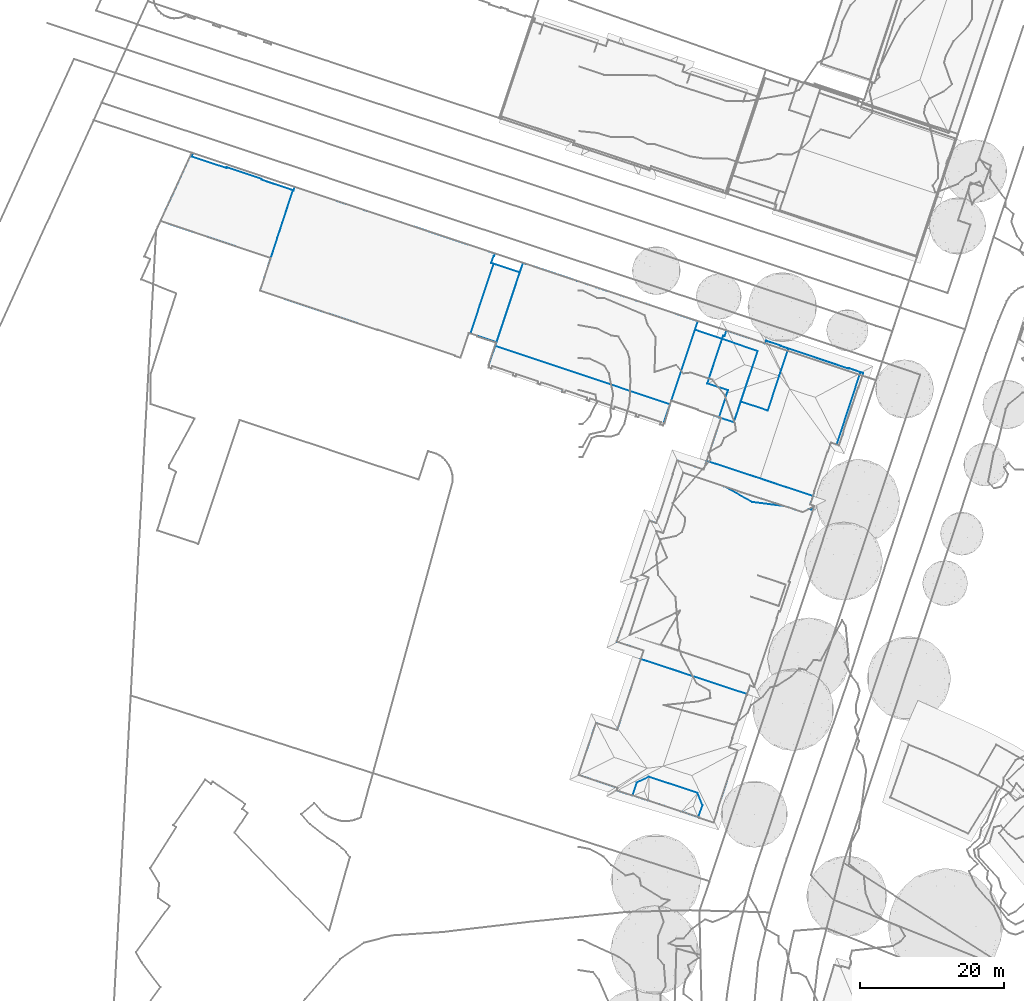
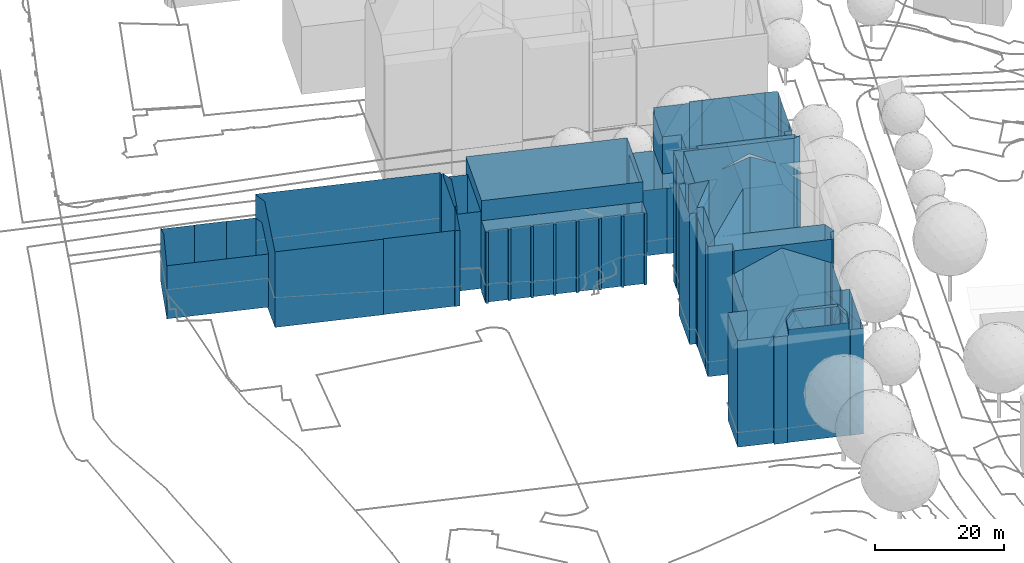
# Not in any storey, part 19 of 494: 2 walls.
"""IFC2X3 model written with IfcOpenShell, lengths in metres."""

from ifc_helpers import new_model, si_unit, frame, origin_with_axes, place, context, subcontext, project, faceted_brep, element, save


model = new_model("IFC2X3")

# Units and contexts
model_context = context("Model", 3, precision=1e-05, world=origin_with_axes())
body_context = subcontext(model_context, "Body", "Model", "MODEL_VIEW")
ifc_project = project(units=[si_unit("AREAUNIT", "SQUARE_METRE"), si_unit("LENGTHUNIT", "METRE")], contexts=[model_context])

# Walls
wall_1_placement = place(None, frame((-58.7722679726, 116.2176160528, 523.7797), z_axis=(0.0, 0.0, 1.0), x_axis=(1.0, 0.0, 0.0)))
element("IfcWall", 1, at=wall_1_placement, Name="Wall 0", context=body_context, shape_type="Brep", body=[
    faceted_brep([(74.0280000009, -15.0419999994, 2.1637), (74.4210000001, -13.8662, 16.6373), (74.0280000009, -15.0419999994, 14.5215), (70.745000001, -24.8584000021, 16.6373), (74.4210000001, -13.8662, -0.519), (70.745000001, -24.8584000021, -0.519), (70.745000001, -24.8584000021, 14.5215), (70.5830000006, -25.378899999, 16.6373), (70.5830000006, -25.378899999, 12.8257), (70.745000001, -24.8584000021, 2.1637), (70.5830000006, -25.378899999, -0.519), (49.7540000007, -6.9981000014, 14.2156), (49.8029999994, -7.0137000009, 14.2156), (49.7540000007, -6.9981000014, -0.373), (49.7190000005, -7.1035000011, 14.2156), (49.7190000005, -7.1035000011, -0.373), (74.4639999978, -26.0967000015, 14.5215), (74.4639999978, -26.0967000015, 2.1637), (74.4389999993, -26.2001999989, 14.5215), (74.4389999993, -26.2001999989, 2.1637), (77.362999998, -27.1797000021, 14.5215), (77.362999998, -27.1797000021, 2.1637), (78.6090000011, -23.432599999, 14.5215), (78.6090000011, -23.432599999, 2.1637), (75.7329999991, -22.4776000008, 14.5215), (75.7329999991, -22.4776000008, 2.1637), (77.7799999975, -16.3203000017, 14.5215), (77.7799999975, -16.3203000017, 2.1637), (45.555999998, -19.9618999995, 12.8257), (45.4869999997, -19.938500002, 12.8257), (45.555999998, -19.9618999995, -0.71), (45.4549999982, -20.2646999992, 12.8257), (45.4549999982, -20.2646999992, -0.71), (45.8350000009, -20.3916000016, 12.8257), (45.8350000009, -20.3916000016, -0.71), (45.9389999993, -20.0791000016, 12.8257), (45.9389999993, -20.0791000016, -0.71), (48.9179999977, -21.0703000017, 12.8257), (48.9179999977, -21.0703000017, -0.71), (48.8139999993, -21.3828000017, 12.8257), (48.8139999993, -21.3828000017, -0.71), (49.1939999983, -21.5088, 12.8257), (49.1939999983, -21.5088, -0.71), (49.2980000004, -21.1963, 12.8257), (49.2980000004, -21.1963, -0.71), (52.3339999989, -22.2070000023, 12.8257), (52.3339999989, -22.2070000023, -0.71), (52.2300000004, -22.5196000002, 12.8257), (52.2300000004, -22.5195000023, -0.71), (52.6090000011, -22.6455000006, 12.8257), (52.6090000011, -22.6455000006, -0.71), (52.7139999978, -22.3339999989, 12.8257), (52.7139999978, -22.3339999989, -0.71), (55.7229999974, -23.3330000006, 12.8257), (55.7229999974, -23.3330000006, -0.71), (55.6180000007, -23.6464999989, 12.8257), (55.6180000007, -23.6464999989, -0.71), (55.9969999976, -23.7725000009, 12.8257), (55.9969999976, -23.7725000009, -0.71), (56.1019999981, -23.4589999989, 12.8257), (56.1019999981, -23.4589999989, -0.71), (59.1180000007, -24.4649000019, 12.8257), (59.1180000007, -24.4649000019, -0.71), (59.0139999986, -24.7783000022, 12.8257), (59.0139999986, -24.7783000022, -0.71), (59.3839999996, -24.9004000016, 12.8257), (59.3839999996, -24.9004000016, -0.71), (59.487999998, -24.5879000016, 12.8257), (59.487999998, -24.5879000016, -0.71), (62.5150000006, -25.5956999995, 12.8257), (62.5150000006, -25.5956999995, -0.71), (62.4109999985, -25.9092000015, 12.8257), (62.4109999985, -25.9092000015, -0.71), (62.7899999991, -26.0351999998, 12.8257), (62.7899999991, -26.0351999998, -0.71), (62.8939999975, -25.7217000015, 12.8257), (62.8939999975, -25.7217000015, -0.71), (65.9210000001, -26.7294999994, 12.8257), (65.9210000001, -26.7294999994, -0.71), (65.8169999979, -27.0430000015, 12.8257), (65.8169999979, -27.0430000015, -0.71), (66.186999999, -27.1660000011, 12.8257), (66.186999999, -27.1660000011, -0.71), (66.2909999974, -26.8526000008, 12.8257), (66.2909999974, -26.8526000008, -0.71), (69.3189999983, -27.8612999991, 12.8257), (69.3189999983, -27.8612999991, -0.71), (69.2149999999, -28.1737999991, 12.8257), (69.2149999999, -28.1737999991, -0.71), (69.5979999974, -28.3007999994, 12.8257), (69.5979999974, -28.3007999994, -0.71), (46.370000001, -17.2959000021, 16.6374), (46.370000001, -17.2959000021, -0.519), (46.370000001, -17.2959000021, -0.71), (46.2009999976, -4.8467000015, -0.594), (46.2009999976, -4.8467000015, 14.4156), (46.1349999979, -4.8251999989, -0.594), (46.318, -4.496100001, 14.2276), (46.318, -4.496100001, -0.594), (18.5789999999, 4.7294999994, 14.2446), (32.4979999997, 0.1006000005, 14.2356), (18.5789999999, 4.7294999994, -0.5939), (34.182, -0.4600000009, -0.594), (39.3829999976, -2.1895000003, 14.2316), (18.4210000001, 4.254900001, 6.9523), (18.4210000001, 4.254900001, 3.1787), (18.4210000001, 4.254900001, -0.5939), (30.1099999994, -15.0419999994, 13.7547), (30.0969999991, -15.0918000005, 13.7257), (30.1099999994, -15.0419999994, -0.594), (40.8000000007, -18.6152999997, -0.594), (40.8000000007, -18.6152999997, 13.7516), (40.7829999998, -18.6816999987, -0.594), (41.5520000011, -18.9356000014, 13.7146), (41.5520000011, -18.9356000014, -0.594), (42.7009999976, -15.4873000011, -0.594), (42.7009999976, -15.4873000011, 5.5394), (23.2190000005, -12.7969000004, -0.594), (30.0969999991, -15.0918000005, -0.594), (13.7929999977, -9.6533000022, 13.7237), (13.7929999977, -9.6533000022, -0.5939), (17.868999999, -11.0126999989, 2.9847), (13.7929999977, -9.6533000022, 8.3542), (15.2699999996, -5.120099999, 0.0), (15.2699999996, -5.120099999, 10.054), (6.1079999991, -2.0478999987, 10.06), (8.9079999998, -2.9873000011, 0.0), (0.0, 0.0, 0.0), (0.0, 0.0, 10.0651), (14.0299999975, 5.8515000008, 0.0), (13.9890000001, 5.7285000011, 2.5258), (13.9890000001, 5.7285000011, 0.0), (9.1999999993, 7.4589999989, 10.0391), (14.0299999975, 5.8515000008, 10.0371), (9.1999999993, 7.4589999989, 0.0), (9.1589999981, 7.3348999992, 0.0), (4.4509999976, 9.2881000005, 9.9211), (4.3350000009, 8.9393999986, 0.0), (4.4509999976, 9.2881000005, 0.0), (4.2839999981, 9.3436999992, 9.9211), (4.2839999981, 9.3436999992, 0.0), (46.1349999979, -4.8251999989, 14.4156), (45.8099999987, -5.8037, 14.9385), (45.8099999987, -5.8037, 3.2897), (45.8099999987, -5.8037, -0.594), (46.370000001, -17.2959000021, 12.8257), (46.5449999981, -16.7705000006, -0.373), (45.4869999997, -19.938500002, -0.71), (49.8029999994, -7.0137000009, -0.373), (46.5449999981, -16.7705000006, 14.2156), (50.2129999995, -5.7881000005, -0.519), (50.2129999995, -5.7881000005, 16.6374), (45.8099999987, -5.8037, 9.1141), (46.1549999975, -5.9189999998, 14.2156), (46.1549999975, -5.9189999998, -0.373), (46.1549999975, -5.9189999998, 14.9385), (46.1549999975, -5.9189999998, -0.594), (69.699000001, -27.9970999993, 12.8257), (70.5830000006, -25.378899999, -0.71), (69.699000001, -27.9970999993, -0.71), (2.0979999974, 4.5762000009, 12.5788), (13.9890000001, 5.7285000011, 10.103), (18.3409999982, 4.2822000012, 0.0), (18.3409999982, 4.2822000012, -0.5939), (18.3409999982, 4.2822000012, 10.1), (18.4210000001, 4.254900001, 14.4986), (18.3409999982, 4.2822000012, 14.4976), (44.2179999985, -11.7217000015, -0.594), (44.2179999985, -11.7217000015, -0.373), (42.9349999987, -15.5645000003, -0.373), (42.9349999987, -15.5645000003, -0.594), (44.2179999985, -11.7217000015, 14.2156), (44.2179999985, -11.7217000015, 18.0432), (42.9349999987, -15.5645000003, 15.7615), (42.9349999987, -15.5645000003, 14.2156), (43.873999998, -15.8779000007, -0.373), (43.873999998, -15.8779000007, 14.2156), (42.7009999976, -15.4873000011, 15.7615), (50.6559999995, -5.9345999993, 16.6374), (50.6559999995, -5.9345999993, -0.519), (54.0139999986, -7.0537, 16.6374), (54.0139999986, -7.0537, -0.519), (53.6339999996, -6.9268000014, 16.6374), (57.7029999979, -8.2831999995, 16.6374), (57.7249999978, -8.2910000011, -0.519), (53.6339999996, -6.9268000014, -0.519), (60.4169999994, -9.1865000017, 16.6374), (60.7969999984, -9.313500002, 16.6374), (60.7969999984, -9.313500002, -0.519), (63.824000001, -10.3233000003, 16.6374), (63.824000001, -10.3233000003, -0.519), (67.2199999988, -11.4541000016, 16.6373), (67.2199999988, -11.4541000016, -0.519), (64.2029999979, -10.4492000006, 16.6374), (67.5989999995, -11.5800999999, -0.519), (67.5989999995, -11.5800999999, 16.6373), (64.2029999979, -10.4492000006, -0.519), (15.1970000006, -5.3427999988, -0.5939), (16.1719999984, -2.3603999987, 0.0), (16.1719999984, -2.3603999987, -0.5939), (15.193, -5.3555000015, 16.2684), (16.1719999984, -2.3603999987, 11.5119), (16.1719999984, -2.3603999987, 18.0433), (16.8310000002, -0.3418000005, 12.5788), (40.7829999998, -18.6816999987, 13.7136), (9.1589999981, 7.3348999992, 10.1061), (4.3350000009, 8.9393999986, 10.1091), (60.4169999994, -9.1865000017, -0.519)], [[[0, 1, 2]], [[2, 1, 3]], [[4, 0, 5]], [[3, 6, 2]], [[6, 3, 7]], [[6, 8, 9]], [[5, 9, 10]], [[8, 6, 7]], [[11, 12, 13]], [[14, 11, 15]], [[16, 6, 17]], [[18, 16, 19]], [[20, 18, 21]], [[22, 20, 23]], [[24, 22, 25]], [[26, 24, 27]], [[2, 26, 0]], [[28, 29, 30]], [[31, 28, 32]], [[33, 31, 34]], [[35, 33, 36]], [[37, 35, 38]], [[39, 37, 40]], [[41, 39, 42]], [[43, 41, 44]], [[45, 43, 46]], [[47, 45, 48]], [[49, 47, 50]], [[51, 49, 52]], [[53, 51, 54]], [[55, 53, 56]], [[57, 55, 58]], [[59, 57, 60]], [[61, 59, 62]], [[63, 61, 64]], [[65, 63, 66]], [[67, 65, 68]], [[69, 67, 70]], [[71, 69, 72]], [[73, 71, 74]], [[75, 73, 76]], [[77, 75, 78]], [[79, 77, 80]], [[81, 79, 82]], [[83, 81, 84]], [[85, 83, 86]], [[87, 85, 88]], [[89, 87, 90]], [[7, 91, 8]], [[92, 10, 93]], [[94, 95, 96]], [[97, 95, 98]], [[95, 94, 98]], [[99, 100, 101]], [[100, 102, 101]], [[103, 98, 100]], [[98, 102, 100]], [[104, 101, 105]], [[106, 105, 101]], [[107, 108, 109]], [[107, 110, 111]], [[110, 107, 109]], [[111, 110, 112]], [[113, 112, 114]], [[115, 116, 113]], [[113, 114, 115]], [[117, 118, 119]], [[120, 121, 122]], [[119, 121, 117]], [[121, 120, 117]], [[123, 124, 125]], [[125, 126, 123]], [[125, 127, 126]], [[127, 125, 128]], [[129, 130, 131]], [[132, 133, 134]], [[132, 134, 135]], [[136, 137, 138]], [[139, 136, 140]], [[136, 138, 140]], [[96, 141, 142]], [[143, 144, 96]], [[92, 145, 146]], [[29, 145, 92]], [[147, 92, 93]], [[92, 147, 29]], [[148, 92, 146]], [[145, 91, 149]], [[149, 91, 12]], [[150, 12, 151]], [[145, 149, 146]], [[152, 142, 153]], [[143, 152, 15]], [[144, 143, 154]], [[15, 152, 14]], [[155, 153, 142]], [[154, 143, 15]], [[154, 156, 144]], [[14, 152, 153]], [[10, 8, 157]], [[158, 10, 159]], [[89, 90, 157]], [[157, 159, 10]], [[139, 127, 128]], [[160, 139, 128]], [[127, 139, 140]], [[105, 130, 161]], [[131, 130, 162]], [[163, 162, 106]], [[162, 130, 105]], [[161, 164, 104]], [[162, 105, 106]], [[105, 161, 104]], [[164, 165, 104]], [[164, 166, 165]], [[167, 156, 168]], [[168, 156, 154]], [[168, 169, 170]], [[168, 170, 167]], [[153, 155, 171]], [[171, 155, 172]], [[173, 174, 171]], [[173, 171, 172]], [[175, 146, 149]], [[175, 149, 176]], [[116, 169, 175]], [[170, 169, 115]], [[175, 176, 116]], [[174, 173, 177]], [[169, 116, 115]], [[174, 177, 116]], [[176, 174, 116]], [[178, 179, 151]], [[180, 181, 182]], [[183, 184, 180]], [[182, 185, 178]], [[183, 186, 184]], [[187, 188, 186]], [[189, 190, 187]], [[191, 192, 193]], [[4, 194, 1]], [[195, 194, 191]], [[193, 196, 189]], [[120, 122, 124]], [[197, 120, 123]], [[198, 199, 197]], [[199, 198, 162]], [[198, 197, 123]], [[120, 124, 123]], [[200, 122, 119]], [[124, 200, 201]], [[200, 202, 201]], [[201, 202, 203]], [[162, 163, 199]], [[203, 166, 164]], [[166, 203, 202]], [[124, 122, 200]], [[4, 1, 0]], [[0, 9, 5]], [[8, 10, 9]], [[12, 148, 13]], [[11, 13, 15]], [[6, 9, 17]], [[16, 17, 19]], [[18, 19, 21]], [[20, 21, 23]], [[22, 23, 25]], [[24, 25, 27]], [[26, 27, 0]], [[29, 147, 30]], [[28, 30, 32]], [[31, 32, 34]], [[33, 34, 36]], [[35, 36, 38]], [[37, 38, 40]], [[39, 40, 42]], [[41, 42, 44]], [[43, 44, 46]], [[45, 46, 48]], [[47, 48, 50]], [[49, 50, 52]], [[51, 52, 54]], [[53, 54, 56]], [[55, 56, 58]], [[57, 58, 60]], [[59, 60, 62]], [[61, 62, 64]], [[63, 64, 66]], [[65, 66, 68]], [[67, 68, 70]], [[69, 70, 72]], [[71, 72, 74]], [[73, 74, 76]], [[75, 76, 78]], [[77, 78, 80]], [[79, 80, 82]], [[81, 82, 84]], [[83, 84, 86]], [[85, 86, 88]], [[87, 88, 90]], [[91, 145, 8]], [[10, 158, 93]], [[95, 141, 96]], [[97, 98, 103]], [[104, 165, 101]], [[99, 101, 165]], [[108, 118, 109]], [[111, 112, 204]], [[204, 112, 113]], [[116, 177, 113]], [[118, 108, 119]], [[121, 119, 122]], [[133, 161, 129]], [[161, 130, 129]], [[133, 129, 134]], [[132, 135, 205]], [[206, 135, 137]], [[135, 206, 205]], [[206, 137, 136]], [[96, 142, 152]], [[152, 143, 96]], [[150, 92, 148]], [[91, 151, 12]], [[148, 12, 150]], [[90, 159, 157]], [[179, 150, 151]], [[181, 185, 182]], [[184, 181, 180]], [[185, 179, 178]], [[186, 207, 184]], [[188, 207, 186]], [[190, 188, 187]], [[192, 196, 193]], [[194, 195, 1]], [[194, 192, 191]], [[196, 190, 189]]]),
])
wall_2_placement = place(None, frame((6.2087320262, 58.8602160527, 526.0234), z_axis=(0.0, 0.0, 1.0), x_axis=(1.0, 0.0, 0.0)))
element("IfcWall", 2, at=wall_2_placement, Name="Wall 1", context=body_context, shape_type="Brep", body=[
    faceted_brep([(12.6500000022, 30.0965999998, 19.1912), (12.3839999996, 30.1845000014, 19.0412), (12.6500000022, 30.0965999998, 12.2778), (12.3839999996, 30.1845000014, 13.8567), (12.3839999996, 30.1845000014, 12.2778), (16.9910000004, 18.4530999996, 23.3477), (13.0729999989, 20.6112999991, 20.993), (16.9910000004, 18.4530999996, 0.149), (25.6338, 19.931499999, 19.0971), (25.6339999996, 19.9316000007, 0.149), (25.5870000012, 19.9470999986, 19.1241), (25.5870000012, 19.9472000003, 0.149), (27.4039999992, 25.4032999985, 19.1121), (27.4039999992, 25.4032999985, 0.149), (27.4510999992, 25.3876999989, 0.149), (27.4510999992, 25.3876000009, 14.3436), (31.9759999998, 36.4354999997, 0.167), (28.6790000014, 26.4052000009, 0.167), (31.9759999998, 36.4354999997, 0.149), (21.3740000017, 17.8915999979, 20.968), (21.3740000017, 17.8915999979, 0.149), (25.5390000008, 17.748999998, 4.9455), (25.5760000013, 17.8574000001, 18.7722), (25.4120000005, 17.375, 0.149), (25.5760000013, 17.8574000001, 0.149), (25.4120000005, 17.375, 18.7752), (4.6649999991, 14.121100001, 25.2216), (3.6620000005, 14.4540999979, 25.2216), (4.6649999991, 14.121100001, 0.0), (4.0159999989, 16.3251999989, 0.0), (4.0159999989, 16.3251999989, 24.6526), (6.006000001, 22.3154000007, 0.0), (3.9690000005, 16.3418000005, 12.3048), (3.9690000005, 16.3416999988, 0.0), (3.9690000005, 16.3418000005, 24.6316), (3.9690000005, 16.3418000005, 18.4682), (7.438000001, 22.5135999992, 25.2216), (7.438000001, 22.5135999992, 0.0), (5.9589999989, 22.3319999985, 24.6356), (6.5749999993, 24.1816000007, 0.0), (5.9589999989, 22.3319999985, 0.0), (6.5749999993, 24.1816000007, 6.1594), (2.7419999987, 15.8612999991, 0.0), (0.1440000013, 8.0507000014, 18.4872), (0.1440000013, 8.0507000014, 24.6526), (0.1440000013, 8.0507000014, 12.3228), (0.1440000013, 8.0507000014, 0.0), (2.0069999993, 13.6503999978, 24.6576), (2.7419999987, 15.8612999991, 12.3298), (5.2030000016, 10.7382000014, 27.6903), (1.6449999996, 8.3486000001, 25.2216), (5.2030000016, 10.7382000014, 0.0), (3.6620000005, 14.4540999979, 0.0), (2.6490000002, 8.0155999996, 25.2216), (1.6449999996, 8.3486000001, 0.0), (0.8469999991, 6.9519999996, 24.6236), (0.8471999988, 6.9519999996, 18.4192), (0.8953000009, 6.9365999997, 0.0), (0.8949999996, 6.936499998, 24.6456), (-1.1079999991, 0.9090999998, 0.0), (-1.1079999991, 0.9090999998, 24.6406), (-1.1559999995, 0.9257000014, 0.0), (-1.1559999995, 0.9257999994, 24.6186), (-1.7630000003, -0.9013999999, 0.0), (-1.7630000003, -0.9013999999, 24.6176), (0.0, 0.0, 25.2216), (2.6490000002, 8.0155999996, 0.0), (16.6739999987, -6.9746000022, 18.4862), (17.2430000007, -7.1640999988, 24.6466), (16.6739999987, -6.9746000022, 24.6476), (16.6739999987, -6.9746000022, 6.1624), (16.6739999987, -6.9747000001, 0.0), (17.2430000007, -7.1640999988, 0.0), (17.2919999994, -7.0175999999, 0.0), (17.2919999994, -7.0175999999, 24.7106), (16.5540000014, -5.4688000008, 25.2215), (16.5540000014, -5.4688000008, 0.0), (12.0729999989, -3.9052999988, 25.2215), (12.0729999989, -3.9052999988, 0.0), (8.0500000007, -2.5713, 25.2215), (8.0500000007, -2.5713, 0.0), (4.3040000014, -1.2989000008, 25.2216), (4.3040000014, -1.2989000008, 0.0), (7.0269999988, 3.4169999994, 29.8731), (7.0269999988, 3.4169999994, 0.0), (0.0, 0.0, 0.0), (24.7890000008, 17.4540999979, 19.1131), (24.7890000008, 17.4540999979, 0.149), (25.0179999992, 18.0819999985, 0.0), (25.0179999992, 18.0819999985, 24.6676), (25.5870000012, 17.8915999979, 0.0), (10.6730000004, 24.1484000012, 0.149), (25.4169999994, 19.2793000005, 0.149), (10.6730000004, 24.1484000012, 0.0), (10.6730000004, 24.1484000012, 19.1802), (10.6730000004, 24.1484000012, 24.1327), (18.0610000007, 21.7089999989, 23.3477), (25.4169999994, 19.2793000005, 24.1327), (25.4169999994, 19.2793000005, 19.0991), (25.5760000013, 17.8574000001, 24.6836), (25.5760000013, 17.8574000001, 0.0), (23.9919999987, 17.0458999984, 25.2216), (23.9919999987, 17.0458999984, 0.0), (25.5870000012, 17.8915999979, 24.6686), (15.5450000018, 19.7762999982, 22.3908), (15.5450000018, 19.7762999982, 25.2216), (15.5450000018, 19.7762999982, 0.0), (15.5450000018, 19.7762999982, 0.149), (13.0729999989, 20.6112999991, 0.149), (17.245000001, 19.2265000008, 23.3477), (29.675999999, 28.2870999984, 4.9445), (29.675999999, 28.2870999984, 0.167), (29.6290000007, 28.3037, 0.167), (31.6480000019, 34.3134000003, 19.3951), (30.6330000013, 31.2928999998, 19.4111), (31.6480000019, 34.3134000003, 0.167), (31.6949000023, 34.2974999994, 0.167), (31.6950000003, 34.2978000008, 19.3581), (32.368999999, 36.3046000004, 9.7521), (32.368999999, 36.3046999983, 19.3481), (32.368999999, 36.3046000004, 0.167), (9.4129999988, -21.8370000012, 22.0868), (9.4129999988, -21.8368999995, 22.5808), (10.0930000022, -23.496100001, 21.9128), (10.0930000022, -23.496100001, 21.0859), (9.5240000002, -25.2177999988, 21.0259), (2.6530000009, -19.6035000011, 22.1868), (2.6530000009, -19.6035000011, 22.5808), (4.8559999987, -20.3311000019, 22.1868), (0.9900000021, -20.3936000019, 21.9578), (0.9900000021, -20.3936000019, 21.3189), (0.3980000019, -22.1845999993, 20.001), (0.3980000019, -22.1845999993, 21.0339), (0.6720000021, -21.3555000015, 20.626), (0.2109999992, -22.1220999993, -0.29), (0.1950000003, -22.1700000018, 4.7485), (0.1950000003, -22.1700000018, -0.29), (0.2109999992, -22.1220999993, 20.005), (0.1950000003, -22.1700000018, 19.97), (0.2109999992, -22.1220999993, 14.9315), (0.1953999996, -22.1697000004, 14.8965), (0.2109999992, -22.1220999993, 4.7835), (9.6568999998, -25.3136, -0.29), (9.6570000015, -25.3136, 19.749), (9.6728999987, -25.2666999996, -0.29), (9.6732000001, -25.2666999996, 14.7665), (9.6730000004, -25.2666000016, 19.785), (11.629999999, -25.9688000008, 19.704), (12.246199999, -23.9589000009, -0.29), (12.2930000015, -23.9756000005, 19.874), (12.2930000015, -23.9754999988, -0.29), (14.2459999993, -17.942400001, -0.29), (12.2459999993, -23.9589999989, 19.911), (13.2459999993, -20.9501999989, -0.29), (14.2930000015, -17.9580999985, 9.786), (14.2930000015, -17.9580000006, 14.8415), (14.2926000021, -17.9583000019, 19.898), (14.2930000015, -17.9580999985, -0.29), (14.1941, -14.2655999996, -0.29), (14.2410000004, -14.2813000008, 14.6415), (14.2410000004, -14.2811999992, -0.29), (14.194000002, -14.2657000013, 19.6521), (16.1970000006, -8.2481000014, -0.29), (16.1970000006, -8.2481000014, 19.6451), (16.243999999, -8.2646999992, 19.6201), (16.243999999, -8.2646999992, 9.653), (16.243999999, -8.2646999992, -0.29), (-7.0720000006, -19.3643000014, -0.29), (-7.0720000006, -19.3643000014, 19.8721), (-4.6679999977, -12.1581999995, 4.7605), (-5.2690000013, -13.9609999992, 19.9031), (-4.6679999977, -12.1581999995, 14.8625), (-4.6679999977, -12.1583000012, -0.29), (16.2789999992, -8.1601999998, 19.6201), (16.2789999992, -8.1601999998, 24.1326), (8.7470000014, -5.6719000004, 23.5807), (1.550999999, -3.2969000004, 24.1327), (1.550999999, -3.2969000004, 19.7971), (12.6460000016, 30.0839000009, 12.2778), (12.3839999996, 30.1845000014, 0.149), (12.6460000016, 30.0839000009, 0.149), (12.3850000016, 30.1845000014, -0.08), (12.6460000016, 30.0839000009, -0.08), (12.7989999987, 41.0370999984, 0.078), (17.7219999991, 39.3603000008, 0.078), (12.7989999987, 41.0370999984, -0.08), (13.1550000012, 41.4609000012, 19.4401), (13.4000000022, 42.1972000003, 4.9185), (13.4000000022, 42.1972000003, 0.078), (12.9609999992, 41.5243999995, 9.6041), (13.1550000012, 41.4609000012, 0.078), (12.9609999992, 41.5243999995, 0.078), (14.4270000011, 29.4912, 0.149), (14.4270000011, 29.4912, -0.08), (17.7219999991, 39.3603000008, -0.08), (15.3839999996, 32.3563999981, 0.078), (15.3839999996, 32.3563999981, 0.149), (19.1429999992, 31.1209999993, 0.149), (19.1429999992, 31.1209999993, 0.078), (10.2760000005, 22.9521000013, 19.1772), (10.2760000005, 22.9521000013, 24.6676), (10.2760000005, 22.9521000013, 0.0), (29.0069999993, 26.2967999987, 0.167), (29.0069999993, 26.2967999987, 19.3071), (28.6790000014, 26.4052000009, 0.149), (27.8790000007, 26.6717999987, 0.149), (27.8790000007, 26.6717999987, 19.3101), (2.8909999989, 15.8125, 0.0), (3.7030000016, 15.5428999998, 24.7266), (3.7030000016, 15.5428999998, 0.0), (2.8909999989, 15.8125, 24.7266), (2.7419999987, 15.8612999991, 24.6596), (3.7670000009, 15.7353000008, 24.6306), (3.7670000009, 15.7353000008, 0.0), (6.5749999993, 24.1816000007, 24.6376), (6.6330000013, 24.1620999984, 24.6646), (0.4409999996, 7.9510999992, 24.7866), (1.1059999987, 7.7313999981, 24.7856), (0.4409999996, 7.9510999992, 0.0), (1.1059999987, 7.7313999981, 0.0), (0.8469999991, 6.9521000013, 0.0), (1.0170000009, 7.4637999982, 24.6236), (1.938000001, -2.1319000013, 24.6386), (1.938000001, -2.1319000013, 0.0), (-1.7089999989, -0.9200000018, 24.6416), (16.2789999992, -8.1601999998, 0.0), (16.2789999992, -8.1601999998, -0.29), (25.4169999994, 19.2793000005, 0.0), (29.0460000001, 26.4111000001, 19.3991), (29.675999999, 28.2870999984, 19.3891), (29.0460000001, 26.4111000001, 0.167), (27.7850000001, 26.3885999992, 19.0822), (27.4510000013, 25.3876999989, 19.0851), (32.069000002, 36.4043000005, 19.5861), (30.3770000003, 36.9668000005, 19.5821), (30.3770000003, 36.9668000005, 0.149), (30.8610000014, 36.8055999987, 0.149), (30.3610000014, 36.9199000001, 19.6171), (30.3610000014, 36.9199000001, 0.149), (20.8920000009, 40.0692999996, 0.078), (20.9079999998, 40.1160999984, 0.078), (20.9079000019, 40.1160999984, 19.5561), (20.8920000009, 40.0692999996, 19.5921), (18.7989999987, 40.4023000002, 0.078), (18.7989999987, 40.4023000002, 19.5351), (18.8220000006, 40.4736000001, 19.4771), (18.9230000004, 40.7762999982, 19.4771), (18.9230000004, 40.7762999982, 0.078), (19.0159999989, 40.745099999, 19.5511), (11.7019999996, -25.7529999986, 19.867), (11.629999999, -25.9688000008, -0.29), (14.9600000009, -15.9541999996, -0.29), (14.936999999, -16.0245000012, -0.29), (14.9600000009, -15.9541000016, 19.854), (14.936999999, -16.0245000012, 19.906), (13.8099999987, -15.572300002, -0.29), (13.8099999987, -15.572300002, 19.863), (14.4059999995, -15.7705000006, 19.853), (14.2410000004, -14.2813000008, 19.6271), (13.9200000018, -15.2432000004, 19.6281), (-1.7980000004, -21.5069000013, -0.29), (-1.7980000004, -21.5069000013, 19.987), (-1.7129999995, -21.251000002, 20.091), (-1.680999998, -21.1552999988, 20.085), (-1.680999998, -21.1552999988, -0.29), (-1.7609999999, -21.5186000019, 20.0), (-1.0119999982, -21.7675999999, 19.998), (-1.7609999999, -21.5186000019, -0.29), (-1.0119999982, -21.7675999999, -0.29), (-1.7210000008, -13.1387000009, -0.29), (-4.6679999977, -12.1581999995, 19.9131), (-4.6160000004, -12.1757999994, 19.9501), (-1.7210000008, -13.1387000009, 19.9541), (-1.6459999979, -12.9131000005, 19.7871), (-1.6459999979, -12.9131000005, -0.29), (1.550999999, -3.2969000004, 0.0), (1.550999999, -3.2969000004, -0.29), (-1.9459999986, -21.067400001, 19.8321), (-6.1330000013, -19.6768000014, 19.8691), (8.7470000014, -5.6719000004, -0.29), (10.7520000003, 34.8797999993, -0.08), (10.7520000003, 34.8797999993, 19.2672), (12.9609999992, 41.5243999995, 19.2852), (13.5140000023, 33.5819999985, 19.0472), (13.6280000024, 33.9248000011, 19.3152), (13.6280000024, 33.9248000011, -0.08), (21.9670000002, 39.7127999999, 0.078), (21.9670000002, 39.7127999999, 0.149), (10.8210000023, 34.8563999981, 19.3222), (13.4000000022, 42.1972000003, 14.6016), (13.4000000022, 42.1972000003, 19.4421), (13.4970000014, 42.1660000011, 19.5201), (16.9090000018, 41.0302000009, 19.5291), (20.7239999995, 35.9316000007, 0.149), (20.7070000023, 35.8797999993, 22.3239), (20.7400000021, 35.9813999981, 22.3239), (20.7239999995, 35.9316000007, 22.3649), (7.1449999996, -24.4268000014, 21.0279), (2.625, -22.9248000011, 21.0319), (7.1799999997, -24.438500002, 21.0459), (9.5240000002, -25.2177999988, 19.788), (0.4750000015, -22.2109999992, 21.0629), (2.5879999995, -22.9121000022, 21.06), (9.4780000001, -25.2021999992, 21.0429), (9.6730000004, -25.2666000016, 4.7285), (0.3980000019, -22.1845999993, -0.285), (0.4750000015, -22.2109999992, -0.285), (7.1449999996, -24.4268000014, -0.285), (2.5879999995, -22.9122000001, -0.285), (9.5190000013, -25.2159000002, -0.285), (2.625, -22.9248000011, -0.285), (7.1799999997, -24.438500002, -0.285), (6.006000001, 22.3154000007, 24.6576), (29.6290000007, 28.3037, 19.4271), (14.2459999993, -17.942400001, 19.935)], [[[0, 1, 2]], [[3, 2, 1]], [[3, 4, 2]], [[5, 6, 7]], [[8, 9, 10]], [[10, 9, 11]], [[12, 10, 13]], [[14, 15, 13]], [[12, 13, 15]], [[16, 17, 18]], [[19, 7, 20]], [[21, 22, 23]], [[24, 21, 23]], [[25, 23, 22]], [[26, 27, 28]], [[29, 30, 31]], [[32, 30, 33]], [[34, 30, 35]], [[30, 29, 33]], [[36, 26, 37]], [[38, 39, 40]], [[41, 39, 38]], [[38, 40, 31]], [[42, 43, 44]], [[45, 42, 46]], [[47, 48, 44]], [[42, 44, 48]], [[49, 50, 51]], [[27, 51, 52]], [[50, 53, 54]], [[55, 56, 57]], [[57, 58, 55]], [[59, 60, 58]], [[58, 57, 59]], [[61, 62, 59]], [[62, 60, 59]], [[63, 64, 61]], [[62, 61, 64]], [[53, 65, 66]], [[67, 68, 69]], [[68, 70, 71]], [[68, 71, 72]], [[73, 74, 72]], [[75, 73, 76]], [[74, 73, 75]], [[77, 75, 78]], [[79, 77, 80]], [[81, 79, 82]], [[83, 81, 84]], [[65, 84, 85]], [[23, 25, 86]], [[87, 23, 86]], [[88, 89, 90]], [[91, 92, 93]], [[94, 95, 96]], [[96, 97, 98]], [[97, 96, 95]], [[22, 99, 86]], [[100, 24, 87]], [[86, 101, 102]], [[101, 86, 99]], [[87, 102, 100]], [[102, 87, 86]], [[90, 103, 99]], [[90, 22, 24]], [[90, 24, 100]], [[104, 105, 6]], [[106, 107, 108]], [[6, 36, 37]], [[36, 6, 105]], [[108, 37, 106]], [[37, 108, 6]], [[101, 19, 102]], [[19, 101, 109]], [[102, 20, 106]], [[20, 102, 19]], [[109, 105, 104]], [[105, 109, 101]], [[106, 20, 107]], [[110, 111, 112]], [[113, 114, 115]], [[112, 115, 114]], [[116, 117, 113]], [[116, 113, 115]], [[118, 119, 116]], [[120, 118, 116]], [[117, 116, 119]], [[121, 122, 123]], [[123, 124, 121]], [[123, 125, 124]], [[126, 127, 128]], [[128, 122, 121]], [[122, 128, 127]], [[129, 126, 130]], [[131, 132, 133]], [[133, 129, 130]], [[129, 133, 132]], [[134, 135, 136]], [[137, 138, 139]], [[140, 141, 138]], [[142, 143, 144]], [[145, 143, 146]], [[143, 142, 147]], [[148, 149, 150]], [[151, 152, 153]], [[152, 148, 153]], [[154, 155, 151]], [[156, 151, 155]], [[157, 154, 151]], [[158, 159, 160]], [[161, 159, 158]], [[162, 163, 158]], [[164, 163, 165]], [[165, 163, 166]], [[163, 162, 166]], [[167, 168, 169]], [[169, 170, 171]], [[167, 169, 172]], [[173, 174, 175]], [[175, 176, 177]], [[176, 175, 174]], [[178, 179, 180]], [[180, 181, 182]], [[183, 184, 185]], [[186, 187, 188]], [[189, 190, 191]], [[192, 180, 193]], [[194, 184, 195]], [[195, 192, 193]], [[192, 195, 196]], [[195, 193, 194]], [[197, 196, 198]], [[94, 199, 95]], [[95, 199, 200]], [[199, 94, 91]], [[91, 93, 201]], [[201, 199, 91]], [[91, 94, 178]], [[180, 91, 178]], [[0, 2, 178]], [[94, 0, 178]], [[17, 202, 203]], [[204, 17, 205]], [[205, 203, 206]], [[203, 205, 17]], [[42, 48, 207]], [[208, 209, 48]], [[210, 208, 48]], [[48, 209, 207]], [[210, 48, 211]], [[212, 35, 208]], [[35, 212, 34]], [[208, 35, 32]], [[32, 33, 213]], [[213, 209, 32]], [[32, 209, 208]], [[201, 39, 41]], [[199, 214, 215]], [[199, 215, 200]], [[41, 214, 199]], [[41, 199, 201]], [[216, 44, 43]], [[217, 43, 45]], [[43, 217, 216]], [[45, 46, 218]], [[218, 219, 45]], [[45, 219, 217]], [[220, 56, 219]], [[55, 221, 56]], [[217, 56, 221]], [[56, 217, 219]], [[222, 64, 223]], [[64, 222, 224]], [[63, 223, 64]], [[67, 69, 174]], [[173, 164, 67]], [[173, 67, 174]], [[67, 164, 165]], [[165, 70, 67]], [[70, 165, 225]], [[225, 71, 70]], [[166, 226, 225]], [[225, 165, 166]], [[8, 92, 9]], [[89, 98, 97]], [[98, 92, 8]], [[92, 88, 227]], [[88, 92, 98]], [[98, 89, 88]], [[228, 203, 229]], [[203, 110, 229]], [[230, 111, 110]], [[202, 230, 110]], [[110, 203, 202]], [[231, 232, 15]], [[206, 231, 15]], [[14, 205, 206]], [[14, 206, 15]], [[233, 119, 234]], [[234, 119, 118]], [[234, 118, 235]], [[120, 16, 118]], [[236, 235, 118]], [[236, 16, 18]], [[236, 118, 16]], [[237, 234, 238]], [[235, 238, 234]], [[239, 240, 241]], [[241, 242, 239]], [[243, 244, 245]], [[245, 246, 247]], [[245, 247, 243]], [[240, 247, 246]], [[246, 248, 241]], [[246, 241, 240]], [[249, 147, 149]], [[147, 150, 149]], [[150, 147, 250]], [[251, 154, 252]], [[154, 251, 253]], [[157, 252, 154]], [[253, 254, 155]], [[156, 155, 254]], [[253, 155, 154]], [[255, 256, 257]], [[257, 253, 251]], [[257, 251, 255]], [[258, 259, 159]], [[160, 159, 256]], [[256, 159, 259]], [[160, 256, 255]], [[260, 261, 262]], [[260, 262, 263]], [[264, 260, 263]], [[265, 261, 140]], [[138, 266, 140]], [[140, 266, 265]], [[261, 135, 140]], [[260, 135, 261]], [[135, 260, 267]], [[135, 268, 136]], [[268, 135, 267]], [[269, 172, 169]], [[169, 171, 269]], [[270, 271, 171]], [[272, 171, 271]], [[171, 272, 269]], [[176, 222, 177]], [[273, 177, 274]], [[272, 273, 269]], [[222, 223, 177]], [[223, 275, 177]], [[269, 273, 274]], [[276, 274, 275]], [[274, 177, 275]], [[263, 277, 264]], [[264, 277, 167]], [[278, 168, 167]], [[167, 277, 278]], [[276, 275, 279]], [[279, 225, 226]], [[225, 279, 275]], [[280, 189, 183]], [[189, 280, 281]], [[185, 280, 183]], [[282, 189, 281]], [[189, 191, 183]], [[283, 3, 1]], [[283, 284, 285]], [[285, 181, 179]], [[285, 4, 283]], [[285, 179, 4]], [[283, 4, 3]], [[286, 239, 287]], [[287, 239, 242]], [[287, 237, 238]], [[237, 287, 242]], [[284, 288, 281]], [[281, 280, 285]], [[281, 285, 284]], [[243, 188, 187]], [[187, 289, 243]], [[290, 291, 292]], [[290, 292, 289]], [[244, 289, 292]], [[289, 244, 243]], [[286, 287, 198]], [[198, 287, 293]], [[198, 293, 197]], [[294, 295, 296]], [[145, 297, 298]], [[299, 297, 300]], [[301, 132, 131]], [[302, 131, 298]], [[131, 302, 301]], [[139, 145, 298]], [[300, 125, 303]], [[300, 145, 146]], [[300, 297, 145]], [[300, 303, 299]], [[145, 139, 304]], [[131, 139, 298]], [[141, 304, 139]], [[141, 134, 305]], [[305, 306, 141]], [[141, 307, 304]], [[141, 306, 308]], [[144, 304, 309]], [[310, 307, 141]], [[304, 307, 311]], [[304, 311, 309]], [[310, 141, 308]], [[139, 131, 137]], [[6, 108, 7]], [[10, 11, 13]], [[232, 12, 15]], [[17, 204, 18]], [[5, 7, 19]], [[27, 52, 28]], [[312, 31, 30]], [[32, 35, 30]], [[26, 28, 37]], [[38, 214, 41]], [[38, 31, 312]], [[45, 43, 42]], [[211, 48, 47]], [[50, 54, 51]], [[49, 51, 27]], [[53, 66, 54]], [[56, 220, 57]], [[65, 85, 66]], [[70, 68, 67]], [[68, 72, 74]], [[75, 76, 78]], [[77, 78, 80]], [[79, 80, 82]], [[81, 82, 84]], [[83, 84, 65]], [[89, 103, 90]], [[92, 227, 93]], [[90, 99, 22]], [[22, 21, 24]], [[313, 229, 110]], [[313, 110, 112]], [[313, 112, 114]], [[125, 300, 124]], [[127, 126, 129]], [[141, 135, 134]], [[138, 141, 139]], [[135, 141, 140]], [[143, 304, 144]], [[304, 143, 145]], [[250, 147, 142]], [[149, 148, 152]], [[152, 151, 314]], [[314, 151, 156]], [[258, 159, 161]], [[161, 158, 163]], [[168, 170, 169]], [[270, 171, 170]], [[4, 179, 178]], [[179, 181, 180]], [[184, 194, 185]], [[190, 186, 188]], [[186, 290, 289]], [[289, 187, 186]], [[189, 282, 190]], [[186, 190, 282]], [[180, 182, 193]], [[196, 195, 198]]]),
])

save(model, "model.ifc")
